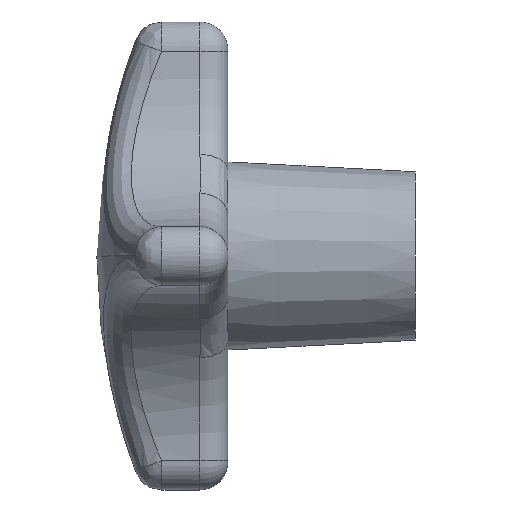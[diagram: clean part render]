
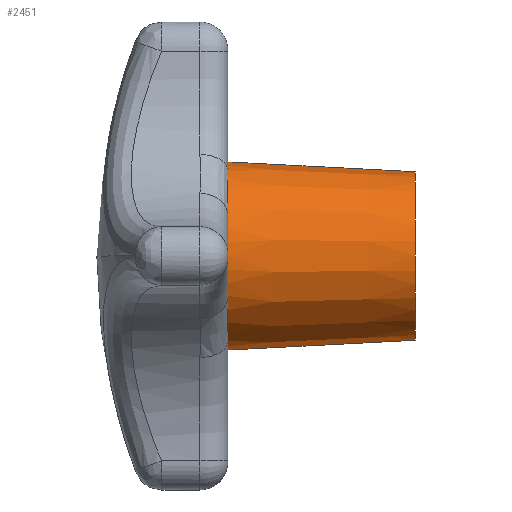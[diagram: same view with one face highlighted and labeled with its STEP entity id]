
A CAD part, left-side view. The second image highlights one B-rep face of the part: STEP entity #2451.
In plain terms, the highlighted conical face has half-angle 3 degrees and reference radius 9 mm.
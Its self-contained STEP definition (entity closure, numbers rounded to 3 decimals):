
#1503 = CIRCLE ( 'NONE', #1566, 10.048 ) ;
#1504 = CARTESIAN_POINT ( 'NONE',  ( -4.278, 0., -9.092 ) ) ;
#1505 = DIRECTION ( 'NONE',  ( 0., 0., 1. ) ) ;
#1506 = DIRECTION ( 'NONE',  ( 0., 1., 0. ) ) ;
#1507 = CARTESIAN_POINT ( 'NONE',  ( 0., 0., 0. ) ) ;
#1508 = AXIS2_PLACEMENT_3D ( 'NONE', #1507, #1506, #1505 ) ;
#1509 = CIRCLE ( 'NONE', #1508, 10.048 ) ;
#1532 = CARTESIAN_POINT ( 'NONE',  ( -4.278, 0., 9.092 ) ) ;
#1538 = CARTESIAN_POINT ( 'NONE',  ( 0., 0., 0. ) ) ;
#1539 = AXIS2_PLACEMENT_3D ( 'NONE', #1538, #1598, #1597 ) ;
#1543 = CIRCLE ( 'NONE', #1539, 10.048 ) ;
#1563 = DIRECTION ( 'NONE',  ( 0., 0., 1. ) ) ;
#1564 = DIRECTION ( 'NONE',  ( 0., 1., 0. ) ) ;
#1565 = CARTESIAN_POINT ( 'NONE',  ( 0., 0., 0. ) ) ;
#1566 = AXIS2_PLACEMENT_3D ( 'NONE', #1565, #1564, #1563 ) ;
#1592 = DIRECTION ( 'NONE',  ( 0., 0., 1. ) ) ;
#1593 = DIRECTION ( 'NONE',  ( 0., 1., 0. ) ) ;
#1594 = CARTESIAN_POINT ( 'NONE',  ( 0., 0., 0. ) ) ;
#1595 = AXIS2_PLACEMENT_3D ( 'NONE', #1594, #1593, #1592 ) ;
#1596 = CIRCLE ( 'NONE', #1595, 10.048 ) ;
#1597 = DIRECTION ( 'NONE',  ( 0., 0., 1. ) ) ;
#1598 = DIRECTION ( 'NONE',  ( 0., 1., 0. ) ) ;
#1861 = VERTEX_POINT ( 'NONE', #3524 ) ;
#1910 = VERTEX_POINT ( 'NONE', #3623 ) ;
#1926 = EDGE_CURVE ( 'NONE', #1861, #1910, #3662, .T. ) ;
#2451 = ADVANCED_FACE ( 'NONE', ( #3656 ), #3650, .T. ) ;
#2452 = ORIENTED_EDGE ( 'NONE', *, *, #2459, .F. ) ;
#2453 = ORIENTED_EDGE ( 'NONE', *, *, #2613, .T. ) ;
#2454 = VERTEX_POINT ( 'NONE', #3649 ) ;
#2456 = VERTEX_POINT ( 'NONE', #3702 ) ;
#2459 = EDGE_CURVE ( 'NONE', #2454, #2456, #3701, .T. ) ;
#2463 = VERTEX_POINT ( 'NONE', #3693 ) ;
#2549 = EDGE_LOOP ( 'NONE', ( #2452, #2453, #2609, #2611, #2615, #6148, #6145, #6143 ) ) ;
#2572 = EDGE_CURVE ( 'NONE', #2463, #2588, #4062, .T. ) ;
#2588 = VERTEX_POINT ( 'NONE', #4168 ) ;
#2609 = ORIENTED_EDGE ( 'NONE', *, *, #2572, .T. ) ;
#2611 = ORIENTED_EDGE ( 'NONE', *, *, #5825, .F. ) ;
#2613 = EDGE_CURVE ( 'NONE', #2454, #2463, #5334, .T. ) ;
#2615 = ORIENTED_EDGE ( 'NONE', *, *, #6147, .F. ) ;
#3524 = CARTESIAN_POINT ( 'NONE',  ( -9.092, 0., -4.278 ) ) ;
#3623 = CARTESIAN_POINT ( 'NONE',  ( -9.092, 0., 4.278 ) ) ;
#3645 = DIRECTION ( 'NONE',  ( 0., 0., 1. ) ) ;
#3646 = DIRECTION ( 'NONE',  ( 0., 1., 0. ) ) ;
#3647 = CARTESIAN_POINT ( 'NONE',  ( 0., -20., 0. ) ) ;
#3648 = AXIS2_PLACEMENT_3D ( 'NONE', #3647, #3646, #3645 ) ;
#3649 = CARTESIAN_POINT ( 'NONE',  ( 0., -20., -9. ) ) ;
#3650 = CONICAL_SURFACE ( 'NONE', #3648, 9., 0.052 ) ;
#3656 = FACE_OUTER_BOUND ( 'NONE', #2549, .T. ) ;
#3658 = DIRECTION ( 'NONE',  ( 0., 0., 1. ) ) ;
#3659 = DIRECTION ( 'NONE',  ( 0., 1., 0. ) ) ;
#3660 = CARTESIAN_POINT ( 'NONE',  ( 0., 0., 0. ) ) ;
#3661 = AXIS2_PLACEMENT_3D ( 'NONE', #3660, #3659, #3658 ) ;
#3662 = CIRCLE ( 'NONE', #3661, 10.048 ) ;
#3693 = CARTESIAN_POINT ( 'NONE',  ( 0., -20., 9. ) ) ;
#3698 = DIRECTION ( 'NONE',  ( 0., 0.999, -0.052 ) ) ;
#3699 = VECTOR ( 'NONE', #3698, 1000. ) ;
#3700 = CARTESIAN_POINT ( 'NONE',  ( 0., -20., -9. ) ) ;
#3701 = LINE ( 'NONE', #3700, #3699 ) ;
#3702 = CARTESIAN_POINT ( 'NONE',  ( 0., 0., -10.048 ) ) ;
#4059 = DIRECTION ( 'NONE',  ( 0., 0.999, 0.052 ) ) ;
#4060 = VECTOR ( 'NONE', #4059, 1000. ) ;
#4061 = CARTESIAN_POINT ( 'NONE',  ( 0., -20., 9. ) ) ;
#4062 = LINE ( 'NONE', #4061, #4060 ) ;
#4168 = CARTESIAN_POINT ( 'NONE',  ( 0., 0., 10.048 ) ) ;
#5330 = DIRECTION ( 'NONE',  ( 0., 0., 1. ) ) ;
#5331 = DIRECTION ( 'NONE',  ( 0., 1., 0. ) ) ;
#5332 = CARTESIAN_POINT ( 'NONE',  ( 0., -20., 0. ) ) ;
#5333 = AXIS2_PLACEMENT_3D ( 'NONE', #5332, #5331, #5330 ) ;
#5334 = CIRCLE ( 'NONE', #5333, 9. ) ;
#5812 = VERTEX_POINT ( 'NONE', #1532 ) ;
#5822 = EDGE_CURVE ( 'NONE', #2456, #5823, #1509, .T. ) ;
#5823 = VERTEX_POINT ( 'NONE', #1504 ) ;
#5825 = EDGE_CURVE ( 'NONE', #5812, #2588, #1503, .T. ) ;
#6143 = ORIENTED_EDGE ( 'NONE', *, *, #5822, .F. ) ;
#6144 = EDGE_CURVE ( 'NONE', #5823, #1861, #1543, .T. ) ;
#6145 = ORIENTED_EDGE ( 'NONE', *, *, #6144, .F. ) ;
#6147 = EDGE_CURVE ( 'NONE', #1910, #5812, #1596, .T. ) ;
#6148 = ORIENTED_EDGE ( 'NONE', *, *, #1926, .F. ) ;
